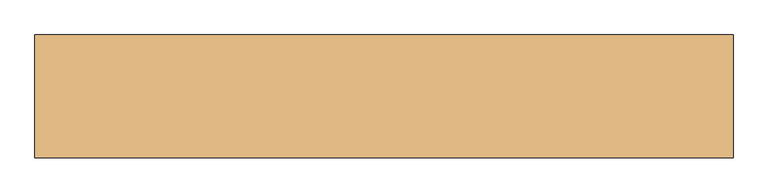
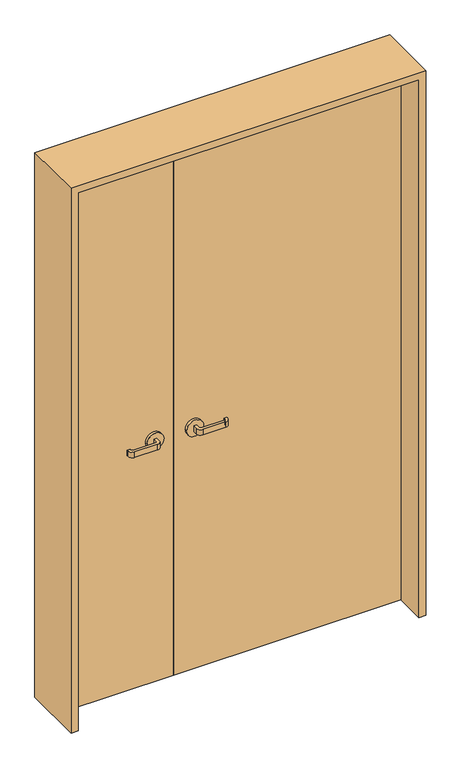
"""IFC4 building model written with IfcOpenShell, lengths in millimetres: door geometry, 両開き戸 : 親子開き：w1200h2000."""

from ifc_helpers import new_model, si_unit, point, frame, frame_2d, origin, origin_with_axes, place, context, project, spatial, polyline, circle_curve, trimmed, segment, composite_curve, outline, extrude, source, transform, mapped, element, save


def door_95390efa(model_context):
    return source(origin(), model_context, "Body", "SweptSolid", [
        extrude(outline(polyline([(591.5283918, 40.0), (591.5283918, 0.0), (-208.4716082, 0.0), (-208.4716082, 40.0), (591.5283918, 40.0)])), origin_with_axes(), (0.0, 0.0, 1.0), 2000.0),
        extrude(outline(polyline([(-208.4716082, 40.0), (-208.4716082, 0.0), (-608.4716082, 0.0), (-608.4716082, 40.0), (-208.4716082, 40.0)])), origin_with_axes(), (0.0, 0.0, 1.0), 2000.0),
        extrude(outline(composite_curve([segment(polyline([(-283.4716082, 50.0), (-283.4716082, 65.0)]), True, "CONTINUOUS"), segment(trimmed(circle_curve(frame_2d((-288.4716082, 65.0)), 5.0), [point((-283.4716082, 65.0))], [point((-288.4716082, 70.0))], True, "CARTESIAN"), True, "CONTINUOUS"), segment(polyline([(-288.4716082, 70.0), (-368.4716082, 70.0)]), True, "CONTINUOUS"), segment(trimmed(circle_curve(frame_2d((-368.4716082, 65.0)), 5.0), [point((-368.4716082, 70.0))], [point((-373.4716082, 65.0))], True, "CARTESIAN"), True, "CONTINUOUS"), segment(polyline([(-373.4716082, 65.0), (-373.4716082, 60.0), (-383.4716082, 60.0), (-383.4716082, 65.0)]), True, "CONTINUOUS"), segment(trimmed(circle_curve(frame_2d((-368.4716082, 65.0)), 15.0), [point((-383.4716082, 65.0))], [point((-368.4716082, 80.0))], False, "CARTESIAN"), True, "CONTINUOUS"), segment(polyline([(-368.4716082, 80.0), (-288.4716082, 80.0)]), True, "CONTINUOUS"), segment(trimmed(circle_curve(frame_2d((-288.4716082, 65.0)), 15.0), [point((-288.4716082, 80.0))], [point((-273.4716082, 65.0))], False, "CARTESIAN"), True, "CONTINUOUS"), segment(polyline([(-273.4716082, 65.0), (-273.4716082, 50.0), (-283.4716082, 50.0)]), True, "CONTINUOUS")], self_intersect=False)), frame((0.0, 0.0, 890.0), z_axis=(0.0, 0.0, 1.0), x_axis=(1.0, 0.0, 0.0)), (0.0, 0.0, 1.0), 20.0),
        extrude(outline(composite_curve([segment(trimmed(circle_curve(frame_2d((900.0, -278.4716082)), 30.0), [point((900.0, -248.4716082))], [point((900.0, -308.4716082))], False, "CARTESIAN"), True, "CONTINUOUS"), segment(trimmed(circle_curve(frame_2d((900.0, -278.4716082)), 30.0), [point((900.0, -308.4716082))], [point((900.0, -248.4716082))], False, "CARTESIAN"), True, "CONTINUOUS")], self_intersect=False)), frame((0.0, 40.0, 0.0), z_axis=(0.0, 1.0, 0.0), x_axis=(0.0, 0.0, 1.0)), (0.0, 0.0, 1.0), 10.0),
        extrude(outline(composite_curve([segment(polyline([(-273.4716082, -10.0), (-273.4716082, -25.0)]), True, "CONTINUOUS"), segment(trimmed(circle_curve(frame_2d((-288.4716082, -25.0)), 15.0), [point((-273.4716082, -25.0))], [point((-288.4716082, -40.0))], False, "CARTESIAN"), True, "CONTINUOUS"), segment(polyline([(-288.4716082, -40.0), (-368.4716082, -40.0)]), True, "CONTINUOUS"), segment(trimmed(circle_curve(frame_2d((-368.4716082, -25.0)), 15.0), [point((-368.4716082, -40.0))], [point((-383.4716082, -25.0))], False, "CARTESIAN"), True, "CONTINUOUS"), segment(polyline([(-383.4716082, -25.0), (-383.4716082, -20.0), (-373.4716082, -20.0), (-373.4716082, -25.0)]), True, "CONTINUOUS"), segment(trimmed(circle_curve(frame_2d((-368.4716082, -25.0)), 5.0), [point((-373.4716082, -25.0))], [point((-368.4716082, -30.0))], True, "CARTESIAN"), True, "CONTINUOUS"), segment(polyline([(-368.4716082, -30.0), (-288.4716082, -30.0)]), True, "CONTINUOUS"), segment(trimmed(circle_curve(frame_2d((-288.4716082, -25.0)), 5.0), [point((-288.4716082, -30.0))], [point((-283.4716082, -25.0))], True, "CARTESIAN"), True, "CONTINUOUS"), segment(polyline([(-283.4716082, -25.0), (-283.4716082, -10.0), (-273.4716082, -10.0)]), True, "CONTINUOUS")], self_intersect=False)), frame((0.0, 0.0, 890.0), z_axis=(0.0, 0.0, 1.0), x_axis=(1.0, 0.0, 0.0)), (0.0, 0.0, 1.0), 20.0),
        extrude(outline(composite_curve([segment(trimmed(circle_curve(frame_2d((900.0, -278.4716082)), 30.0), [point((900.0, -248.4716082))], [point((900.0, -308.4716082))], False, "CARTESIAN"), True, "CONTINUOUS"), segment(trimmed(circle_curve(frame_2d((900.0, -278.4716082)), 30.0), [point((900.0, -308.4716082))], [point((900.0, -248.4716082))], False, "CARTESIAN"), True, "CONTINUOUS")], self_intersect=False)), frame((0.0, -10.0, 0.0), z_axis=(0.0, 1.0, 0.0), x_axis=(0.0, 0.0, 1.0)), (0.0, 0.0, 1.0), 10.0),
        extrude(outline(composite_curve([segment(polyline([(-133.4716082, 50.0), (-143.4716082, 50.0), (-143.4716082, 65.0)]), True, "CONTINUOUS"), segment(trimmed(circle_curve(frame_2d((-128.4716082, 65.0)), 15.0), [point((-143.4716082, 65.0))], [point((-128.4716082, 80.0))], False, "CARTESIAN"), True, "CONTINUOUS"), segment(polyline([(-128.4716082, 80.0), (-48.4716082, 80.0)]), True, "CONTINUOUS"), segment(trimmed(circle_curve(frame_2d((-48.4716082, 65.0)), 15.0), [point((-48.4716082, 80.0))], [point((-33.4716082, 65.0))], False, "CARTESIAN"), True, "CONTINUOUS"), segment(polyline([(-33.4716082, 65.0), (-33.4716082, 60.0), (-43.4716082, 60.0), (-43.4716082, 65.0)]), True, "CONTINUOUS"), segment(trimmed(circle_curve(frame_2d((-48.4716082, 65.0)), 5.0), [point((-43.4716082, 65.0))], [point((-48.4716082, 70.0))], True, "CARTESIAN"), True, "CONTINUOUS"), segment(polyline([(-48.4716082, 70.0), (-128.4716082, 70.0)]), True, "CONTINUOUS"), segment(trimmed(circle_curve(frame_2d((-128.4716082, 65.0)), 5.0), [point((-128.4716082, 70.0))], [point((-133.4716082, 65.0))], True, "CARTESIAN"), True, "CONTINUOUS"), segment(polyline([(-133.4716082, 65.0), (-133.4716082, 50.0)]), True, "CONTINUOUS")], self_intersect=False)), frame((0.0, 0.0, 890.0), z_axis=(0.0, 0.0, 1.0), x_axis=(1.0, 0.0, 0.0)), (0.0, 0.0, 1.0), 20.0),
        extrude(outline(composite_curve([segment(trimmed(circle_curve(frame_2d((900.0, -138.4716082)), 30.0), [point((900.0, -168.4716082))], [point((900.0, -108.4716082))], False, "CARTESIAN"), True, "CONTINUOUS"), segment(trimmed(circle_curve(frame_2d((900.0, -138.4716082)), 30.0), [point((900.0, -108.4716082))], [point((900.0, -168.4716082))], False, "CARTESIAN"), True, "CONTINUOUS")], self_intersect=False)), frame((0.0, 40.0, 0.0), z_axis=(0.0, 1.0, 0.0), x_axis=(0.0, 0.0, 1.0)), (0.0, 0.0, 1.0), 10.0),
        extrude(outline(composite_curve([segment(polyline([(-143.4716082, -10.0), (-133.4716082, -10.0), (-133.4716082, -25.0)]), True, "CONTINUOUS"), segment(trimmed(circle_curve(frame_2d((-128.4716082, -25.0)), 5.0), [point((-133.4716082, -25.0))], [point((-128.4716082, -30.0))], True, "CARTESIAN"), True, "CONTINUOUS"), segment(polyline([(-128.4716082, -30.0), (-48.4716082, -30.0)]), True, "CONTINUOUS"), segment(trimmed(circle_curve(frame_2d((-48.4716082, -25.0)), 5.0), [point((-48.4716082, -30.0))], [point((-43.4716082, -25.0))], True, "CARTESIAN"), True, "CONTINUOUS"), segment(polyline([(-43.4716082, -25.0), (-43.4716082, -20.0), (-33.4716082, -20.0), (-33.4716082, -25.0)]), True, "CONTINUOUS"), segment(trimmed(circle_curve(frame_2d((-48.4716082, -25.0)), 15.0), [point((-33.4716082, -25.0))], [point((-48.4716082, -40.0))], False, "CARTESIAN"), True, "CONTINUOUS"), segment(polyline([(-48.4716082, -40.0), (-128.4716082, -40.0)]), True, "CONTINUOUS"), segment(trimmed(circle_curve(frame_2d((-128.4716082, -25.0)), 15.0), [point((-128.4716082, -40.0))], [point((-143.4716082, -25.0))], False, "CARTESIAN"), True, "CONTINUOUS"), segment(polyline([(-143.4716082, -25.0), (-143.4716082, -10.0)]), True, "CONTINUOUS")], self_intersect=False)), frame((0.0, 0.0, 890.0), z_axis=(0.0, 0.0, 1.0), x_axis=(1.0, 0.0, 0.0)), (0.0, 0.0, 1.0), 20.0),
        extrude(outline(composite_curve([segment(trimmed(circle_curve(frame_2d((900.0, -138.4716082)), 30.0), [point((900.0, -168.4716082))], [point((900.0, -108.4716082))], False, "CARTESIAN"), True, "CONTINUOUS"), segment(trimmed(circle_curve(frame_2d((900.0, -138.4716082)), 30.0), [point((900.0, -108.4716082))], [point((900.0, -168.4716082))], False, "CARTESIAN"), True, "CONTINUOUS")], self_intersect=False)), frame((0.0, -10.0, 0.0), z_axis=(0.0, 1.0, 0.0), x_axis=(0.0, 0.0, 1.0)), (0.0, 0.0, 1.0), 10.0),
        extrude(outline(polyline([(0.0, -633.4716082), (0.0, -608.4716082), (2000.0, -608.4716082), (2000.0, 591.5283918), (0.0, 591.5283918), (0.0, 616.5283918), (2025.0, 616.5283918), (2025.0, -633.4716082), (0.0, -633.4716082)])), frame((0.0, -110.0, 0.0), z_axis=(0.0, 1.0, 0.0), x_axis=(0.0, 0.0, 1.0)), (0.0, 0.0, 1.0), 220.0),
    ])


if __name__ == "__main__":
    model = new_model("IFC4")
    model_context = context("Model", 3, world=origin())
    ifc_project = project(units=[si_unit("LENGTHUNIT", "METRE", prefix="MILLI")], contexts=[model_context])
    site = spatial("IfcSite", under=ifc_project)
    building = spatial("IfcBuilding", under=site)
    placement = place(None, origin())
    door_shape = door_95390efa(model_context)
    element("IfcDoor", 1, ObjectType="両開き戸 : 親子開き：w1200h2000", at=placement, inside=building, context=model_context, shape_type="MappedRepresentation", body=[
        mapped(door_shape, transform((0.0, 0.0, 0.0), x_axis=(1.0, 0.0, 0.0), y_axis=(0.0, 1.0, 0.0), z_axis=(0.0, 0.0, 1.0))),
    ])
    save(model, "model.ifc")
